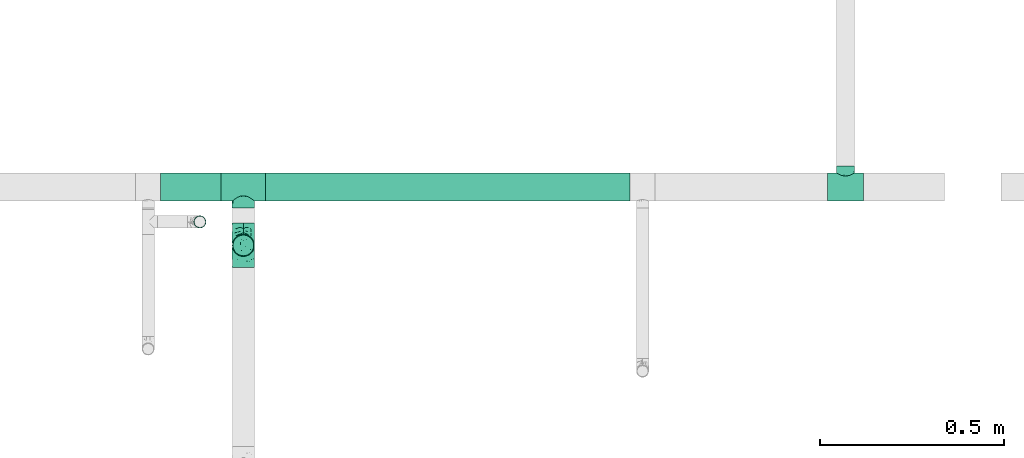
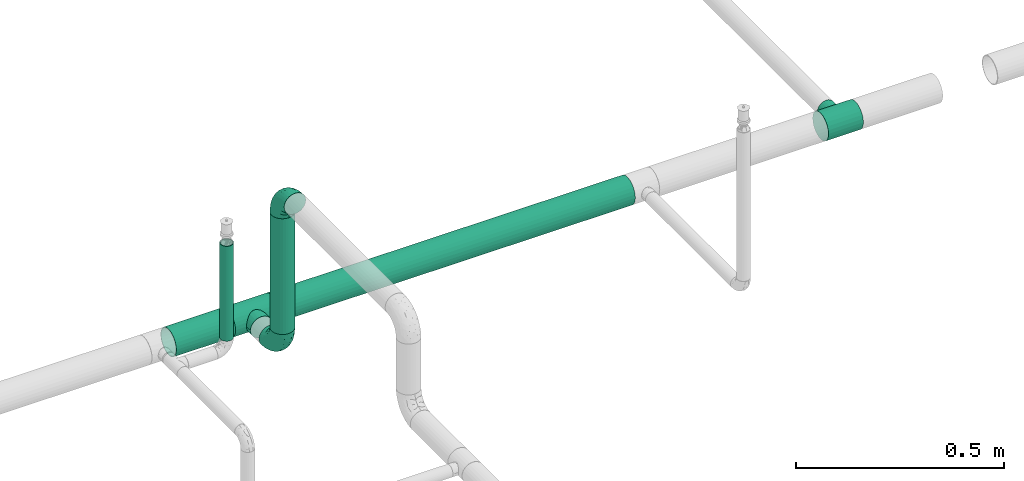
# One storey, part 19 of 157: 4 flow fittings, 4 flow segments.
"""IFC2X3 building model written with IfcOpenShell, lengths in millimetres."""

from ifc_helpers import new_model, entity, si_unit, converted_unit, derived_unit, direction, frame, origin_with_axes, origin_2d_with_axis, place, context, subcontext, project, spatial, hollow_circle, extrude, open_shell, surface_model, source, transform, mapped, type_object, element, save


model = new_model("IFC2X3")

# Units and contexts
model_context = context("Model", 3, precision=0.01, world=frame((0.0, 4.29681676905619e-09, 0.0)), true_north=direction((4.01073788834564e-13, 1.0)))
plan_context = context("Plan", 3, precision=0.01, world=frame((0.0, 4.29681676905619e-09, 0.0)), true_north=direction((4.01073788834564e-13, 1.0)))
body_context = subcontext(model_context, "Body", "Model", "MODEL_VIEW")
ifc_project = project(units=[converted_unit("PLANEANGLEUNIT", "DEGREE", entity("IfcPositiveLengthMeasure", 0.0174532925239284), si_unit("PLANEANGLEUNIT", "RADIAN"), dimensions=[0, 0, 0, 0, 0, 0, 0]), si_unit("AREAUNIT", "SQUARE_METRE"), si_unit("LENGTHUNIT", "METRE", prefix="MILLI"), si_unit("MASSUNIT", "GRAM", prefix="KILO"), si_unit("POWERUNIT", "WATT"), si_unit("PRESSUREUNIT", "PASCAL"), si_unit("FORCEUNIT", "NEWTON", prefix="KILO"), si_unit("ELECTRICCURRENTUNIT", "AMPERE"), si_unit("THERMODYNAMICTEMPERATUREUNIT", "DEGREE_CELSIUS"), si_unit("TIMEUNIT", "SECOND"), si_unit("VOLUMEUNIT", "CUBIC_METRE"), derived_unit("LINEARVELOCITYUNIT", [(si_unit("LENGTHUNIT", "METRE"), 1), (si_unit("TIMEUNIT", "SECOND"), -1)]), derived_unit("VOLUMETRICFLOWRATEUNIT", [(si_unit("VOLUMEUNIT", "CUBIC_METRE"), 1), (si_unit("TIMEUNIT", "SECOND"), -1)]), derived_unit("THERMALTRANSMITTANCEUNIT", [(si_unit("POWERUNIT", "WATT"), 1), (si_unit("THERMODYNAMICTEMPERATUREUNIT", "KELVIN"), -1), (si_unit("AREAUNIT", "SQUARE_METRE"), -1)])], contexts=[model_context, plan_context])

# Site, building, storey
site_placement = place(None, frame((0.0, -4.29681676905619e-09, 0.0), z_axis=(0.0, 0.0, 1.0), x_axis=(1.0, 0.0, 0.0)))
site = spatial("IfcSite", under=ifc_project, at=site_placement, CompositionType="ELEMENT")
building_placement = place(site_placement, frame((0.0, 4.29681676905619e-09, 0.0), z_axis=(0.0, 0.0, 1.0), x_axis=(1.0, 0.0, 0.0)))
building = spatial("IfcBuilding", under=site, at=building_placement, Name="mc-building", CompositionType="ELEMENT")
storey_placement = place(building_placement, frame((0.0, 0.0, 204000.0), z_axis=(0.0, 0.0, 1.0), x_axis=(1.0, 0.0, 0.0)))
storey = spatial("IfcBuildingStorey", under=building, at=storey_placement, Name="Nivå D", CompositionType="ELEMENT", Elevation=204000.0)

# Flow fittings
pipe_fitting_type_1 = type_object("IfcPipeFittingType", Name="magi_pipe_fe_tee_centric_90_NOR", PredefinedType="JUNCTION")
shared_shape_1 = source(origin_with_axes(), body_context, "Body", "SurfaceModel", [
    surface_model("IfcShellBasedSurfaceModel", [(-48.4, 9.86101, -36.80177), (-48.4, 0.0, -38.1), (-48.4, 36.80177, -9.86101), (-48.4, 19.05, -32.99557), (-48.4, 32.99557, -19.05), (-48.4, 26.94077, -26.94077), (-48.4, -38.1, 0.0), (-48.4, -19.05, -32.99557), (-48.4, -26.94077, -26.94077), (-48.4, -9.86101, -36.80177), (-48.4, -32.99557, -19.05), (-48.4, -36.80177, -9.86101), (-48.4, 38.1, 0.0), (-48.4, 32.99557, 19.05), (-48.4, 36.80177, 9.86101), (-48.4, -36.80177, 9.86101), (-48.4, 19.05, 32.99557), (-48.4, 26.94077, 26.94077), (-48.4, 9.86101, 36.80177), (-48.4, 0.0, 38.1), (-48.4, -26.94077, 26.94077), (-48.4, -32.99557, 19.05), (-48.4, -9.86101, 36.80177), (-48.4, -19.05, 32.99557), (48.4, 0.0, -38.1), (48.4, 9.86101, -36.80177), (48.4, 19.05, -32.99557), (48.4, 26.94077, -26.94077), (48.4, 32.99557, -19.05), (48.4, 36.80177, -9.86101), (48.4, -26.94077, -26.94077), (48.4, -38.1, 0.0), (48.4, -9.86101, -36.80177), (48.4, -19.05, -32.99557), (48.4, -32.99557, -19.05), (48.4, -36.80177, -9.86101), (48.4, 36.80177, 9.86101), (48.4, 32.99557, 19.05), (48.4, 19.05, 32.99557), (48.4, 0.0, 38.1), (48.4, 26.94077, 26.94077), (48.4, 9.86101, 36.80177), (48.4, -32.99557, 19.05), (48.4, -26.94077, 26.94077), (48.4, -36.80177, 9.86101), (48.4, -19.05, 32.99557), (48.4, -9.86101, 36.80177), (48.4, 38.1, 0.0), (22.67163, -37.14799, 8.46387), (24.2, -38.1, 0.0), (18.4612, -34.73882, 15.64686), (12.20123, -31.85656, 20.89904), (4.31503, -29.74205, 23.81219), (48.4, -34.89867, 14.4555), (-18.46661, -34.7417, 15.64047), (-48.4, -34.89867, 14.4555), (-24.2, -38.1, 0.0), (-22.67247, -37.1485, 8.46164), (-12.20341, -31.85739, 20.89777), (-4.32227, -29.7431, 23.81088), (12.20123, -31.85656, -20.89904), (-18.46661, -34.7417, -15.64047), (-48.4, -34.89867, -14.4555), (4.31503, -29.74205, -23.81219), (18.4612, -34.73882, -15.64686), (22.67163, -37.14799, -8.46387), (48.4, -34.89867, -14.4555), (-4.32227, -29.7431, -23.81088), (-12.20341, -31.85739, -20.89777), (-22.67247, -37.1485, -8.46164), (0.0, -57.15, -24.2), (6.26342, -57.15, -23.37541), (12.1, -57.15, -20.95781), (12.1, -57.15, 20.95781), (17.11198, -57.15, -17.11198), (20.95781, -57.15, -12.1), (23.37541, -57.15, -6.26342), (-12.1, -57.15, -20.95781), (-20.95781, -57.15, -12.1), (-17.11198, -57.15, -17.11198), (-6.26342, -57.15, -23.37541), (-23.37541, -57.15, -6.26342), (-24.2, -57.15, 0.0), (24.2, -57.15, 0.0), (23.37541, -57.15, 6.26342), (20.95781, -57.15, 12.1), (-23.37541, -57.15, 6.26342), (17.11198, -57.15, 17.11198), (6.26342, -57.15, 23.37541), (-17.11198, -57.15, 17.11198), (-20.95781, -57.15, 12.1), (-12.1, -57.15, 20.95781), (0.0, -57.15, 24.2), (-6.26342, -57.15, 23.37541), (-23.43623, -37.62425, 4.23082), (-0.00362, -29.74257, 23.81153), (8.25813, -30.7993, 22.35562), (23.43582, -37.62399, 4.23193), (23.43582, -37.62399, -4.23193), (-23.43623, -37.62425, -4.23082), (8.25813, -30.7993, -22.35562), (-0.00362, -29.74257, -23.81153)], [open_shell([[[0, 1, 2]], [[3, 0, 2]], [[2, 4, 5]], [[3, 2, 5]], [[6, 2, 1]], [[7, 8, 9]], [[8, 1, 9]], [[10, 11, 8]], [[6, 8, 11]], [[8, 6, 1]], [[6, 12, 2]], [[13, 14, 12]], [[13, 12, 15]], [[16, 13, 15]], [[17, 13, 16]], [[18, 16, 19]], [[20, 19, 21]], [[16, 15, 21]], [[22, 19, 23]], [[20, 23, 19]], [[21, 19, 16]], [[6, 15, 12]], [[24, 25, 26]], [[24, 26, 27]], [[27, 28, 29]], [[24, 27, 30]], [[31, 27, 29]], [[32, 30, 33]], [[32, 24, 30]], [[34, 31, 35]], [[31, 34, 30]], [[27, 31, 30]], [[29, 36, 31]], [[36, 37, 31]], [[31, 37, 38]], [[38, 39, 31]], [[38, 37, 40]], [[39, 38, 41]], [[42, 39, 43]], [[44, 31, 42]], [[45, 39, 46]], [[39, 45, 43]], [[39, 42, 31]], [[36, 29, 47]], [[31, 44, 48]], [[48, 49, 31]], [[44, 50, 48]], [[42, 43, 51]], [[51, 50, 42]], [[52, 51, 43]], [[43, 20, 52]], [[42, 50, 53]], [[54, 21, 55]], [[56, 57, 6]], [[15, 6, 57]], [[57, 54, 15]], [[58, 59, 20]], [[58, 21, 54]], [[21, 58, 20]], [[54, 55, 15]], [[59, 52, 20]], [[50, 44, 53]], [[43, 23, 20]], [[19, 46, 39]], [[22, 45, 46]], [[18, 39, 41]], [[37, 36, 14]], [[17, 38, 40]], [[13, 40, 37]], [[41, 38, 16]], [[12, 36, 47]], [[23, 45, 22]], [[22, 46, 19]], [[18, 19, 39]], [[41, 16, 18]], [[16, 38, 17]], [[13, 17, 40]], [[14, 13, 37]], [[36, 12, 14]], [[45, 23, 43]], [[12, 47, 29]], [[28, 27, 4]], [[2, 29, 28]], [[24, 32, 9]], [[0, 26, 25]], [[1, 25, 24]], [[26, 3, 27]], [[7, 32, 33]], [[4, 27, 5]], [[12, 29, 2]], [[2, 28, 4]], [[5, 27, 3]], [[26, 0, 3]], [[1, 0, 25]], [[9, 1, 24]], [[32, 7, 9]], [[33, 8, 7]], [[30, 34, 60]], [[61, 11, 62]], [[60, 63, 30]], [[34, 64, 60]], [[30, 63, 8]], [[35, 31, 65]], [[65, 64, 35]], [[49, 65, 31]], [[35, 64, 66]], [[67, 68, 8]], [[64, 34, 66]], [[10, 8, 68]], [[68, 61, 10]], [[67, 8, 63]], [[61, 69, 11]], [[69, 6, 11]], [[6, 69, 56]], [[61, 62, 10]], [[30, 8, 33]], [[70, 71, 72]], [[73, 70, 72]], [[74, 75, 76]], [[74, 76, 72]], [[73, 77, 70]], [[77, 78, 79]], [[77, 80, 70]], [[77, 81, 78]], [[81, 77, 82]], [[77, 73, 82]], [[83, 72, 76]], [[83, 84, 85]], [[83, 85, 73]], [[73, 86, 82]], [[73, 85, 87]], [[86, 73, 88]], [[86, 89, 90]], [[86, 88, 89]], [[91, 92, 93]], [[92, 91, 89]], [[88, 92, 89]], [[73, 72, 83]], [[86, 94, 82]], [[54, 90, 89]], [[86, 90, 57]], [[89, 91, 58]], [[94, 56, 82]], [[57, 90, 54]], [[58, 93, 59]], [[58, 54, 89]], [[92, 52, 95]], [[58, 91, 93]], [[73, 96, 88]], [[97, 83, 49]], [[86, 57, 94]], [[88, 52, 92]], [[48, 85, 84]], [[97, 48, 84]], [[85, 50, 87]], [[92, 59, 93]], [[96, 52, 88]], [[73, 51, 96]], [[73, 87, 51]], [[51, 87, 50]], [[50, 85, 48]], [[83, 97, 84]], [[95, 59, 92]], [[76, 98, 83]], [[64, 75, 74]], [[99, 69, 81]], [[76, 75, 65]], [[74, 72, 60]], [[98, 49, 83]], [[65, 75, 64]], [[71, 63, 100]], [[60, 64, 74]], [[70, 67, 101]], [[70, 63, 71]], [[100, 60, 72]], [[100, 72, 71]], [[76, 65, 98]], [[68, 77, 79]], [[68, 80, 77]], [[69, 78, 81]], [[79, 78, 61]], [[99, 82, 56]], [[67, 70, 80]], [[80, 68, 67]], [[101, 63, 70]], [[68, 79, 61]], [[61, 78, 69]], [[82, 99, 81]]])]),
])
flow_fitting_1_placement = place(storey_placement, frame((529390.56587, 414039.35389, 2690.0), z_axis=(0.0, 0.0, 1.0), x_axis=(-1.0, 0.0, 0.0)))
element("IfcFlowFitting", 1, at=flow_fitting_1_placement, inside=storey, type_object=pipe_fitting_type_1, Name="magi_pipe_fe_tee_centric_90_NOR", context=body_context, shape_type="MappedRepresentation", body=[
    mapped(shared_shape_1, transform((0.0, 0.0, 0.0), scale=1.0)),
])
pipe_fitting_type_2 = type_object("IfcPipeFittingType", Name="magi_pipe_fe_elbow_short_001", PredefinedType="BEND")
shared_shape_2 = source(origin_with_axes(), body_context, "Body", "SurfaceModel", [
    surface_model("IfcShellBasedSurfaceModel", [(-60.4, 15.1, -26.15397), (-60.4, 7.81634, -29.17096), (-60.4, 0.0, -30.2), (-60.4, -21.35462, -21.35462), (-60.4, 26.15397, -15.1), (-60.4, 21.35462, -21.35462), (-60.4, 29.17096, -7.81634), (-60.4, -15.1, -26.15397), (-60.4, -7.81634, -29.17096), (-60.4, -26.15397, -15.1), (-60.4, -29.17096, -7.81634), (-60.4, -30.2, 0.0), (-60.4, -29.17096, 7.81634), (-60.4, 29.17096, 7.81634), (-60.4, -21.35462, 21.35462), (-60.4, 26.15397, 15.1), (-60.4, 21.35462, 21.35462), (-60.4, 7.81634, 29.17096), (-60.4, 15.1, 26.15397), (-60.4, -26.15397, 15.1), (-60.4, -7.81634, 29.17096), (-60.4, 0.0, 30.2), (-60.4, -15.1, 26.15397), (-60.4, 30.2, 0.0), (0.0, 60.4, -30.2), (-7.81634, 60.4, -29.17096), (-15.1, 60.4, -26.15397), (-26.15397, 60.4, -15.1), (-29.17096, 60.4, -7.81634), (-21.35462, 60.4, -21.35462), (29.17096, 60.4, -7.81634), (7.81634, 60.4, -29.17096), (21.35462, 60.4, -21.35462), (15.1, 60.4, -26.15397), (26.15397, 60.4, -15.1), (29.17096, 60.4, 7.81634), (30.2, 60.4, 0.0), (-29.17096, 60.4, 7.81634), (21.35462, 60.4, 21.35462), (-21.35462, 60.4, 21.35462), (-26.15397, 60.4, 15.1), (-15.1, 60.4, 26.15397), (-7.81634, 60.4, 29.17096), (26.15397, 60.4, 15.1), (15.1, 60.4, 26.15397), (0.0, 60.4, 30.2), (7.81634, 60.4, 29.17096), (-30.2, 60.4, 0.0), (-40.79975, -26.48639, 9.49143), (-44.2927, -23.46036, 16.95222), (-32.40306, -25.76572, 0.0), (-45.54716, -27.84754, 0.0), (-7.73382, -10.42985, 11.64553), (-2.102, -8.06735, 6.35117), (1.74449, -1.74448, 12.51332), (-46.13593, -4.00068, 29.68351), (-42.2898, 4.62925, 30.14853), (10.31662, 7.37496, 11.34434), (18.44156, 24.57514, 15.02148), (7.07276, 10.95732, 19.27498), (-30.06693, -0.27102, 29.27145), (-44.17726, -11.39441, 27.16031), (-23.4551, -7.13383, 25.24246), (-38.74025, -17.25266, 22.43475), (-27.059, -23.14697, 6.2131), (-19.77486, -19.33133, 0.0), (-10.95732, -7.07276, 19.27498), (-5.39458, 5.39458, 24.69106), (-29.52069, 48.20084, 13.12597), (-25.22813, 47.01796, 19.8404), (-11.27311, 52.093, 28.2877), (-4.13904, 45.17494, 30.12582), (-46.55352, 11.8443, 28.52822), (-7.88305, 20.22717, 29.65331), (-15.00576, 5.54025, 28.20072), (-3.0852, 16.31623, 27.75343), (-52.24998, 18.2886, 24.60768), (-10.49591, 29.69865, 30.14582), (-22.36958, 22.36958, 29.4662), (-17.98262, 13.19715, 30.04443), (-47.74519, 32.16745, 6.63994), (-48.21585, 29.51581, 13.12396), (-37.49729, 37.49729, 11.28901), (-47.20967, 25.1754, 19.81929), (17.25266, 38.74025, 22.43475), (-31.32046, 40.03273, 17.09289), (11.39441, 44.17725, 27.16031), (23.46036, 44.2927, 16.95222), (26.48639, 40.79975, 9.49143), (-7.14666, -12.89694, 0.0), (-14.66463, -16.61192, 7.82462), (4.00068, 46.13593, 29.68351), (-33.18602, 12.93608, 29.65955), (-29.63414, 7.40029, 30.18711), (19.33133, 19.77486, 0.0), (23.14697, 27.059, 6.2131), (16.61192, 14.66463, 7.82462), (27.84754, 45.54716, 0.0), (-32.10611, 20.49149, 27.93323), (-24.57514, -18.44156, 15.02148), (-21.89487, 39.03366, 25.38224), (-18.45005, 50.6405, 24.73297), (-31.78933, 48.71949, 6.47886), (-37.84917, 39.61073, 5.315), (13.91334, 24.32737, 20.46816), (7.13383, 23.4551, 25.24246), (-34.24603, 45.3, 0.0), (-27.95749, 31.89166, 24.81537), (-41.58677, 20.50028, 25.43151), (-0.46157, 0.46157, 17.84239), (-17.23338, 31.26213, 29.03145), (-24.05994, 29.23812, 27.47858), (-13.06094, 40.92174, 28.76128), (-31.83392, 33.72702, 21.39203), (-38.78737, 32.45032, 16.84022), (0.27102, 30.06693, 29.27145), (-24.21469, -13.23741, 21.05734), (8.23548, 2.19333, 6.02161), (25.76572, 32.40306, 0.0), (12.89694, 7.14666, 0.0), (-45.3, 34.24603, 0.0), (2.87514, -2.87514, 0.0), (-44.53432, 26.00869, -20.11577), (-48.18822, 29.5248, -13.12766), (-24.67192, -7.62159, -25.33714), (-26.22398, -0.37671, -28.72374), (-12.13397, -0.50536, -24.74577), (-47.80891, 3.81859, -30.10171), (-44.05719, -27.03585, -9.84546), (-37.94552, -22.39569, -16.35738), (-28.81663, -22.64668, -10.132), (-43.93799, 12.32789, -28.63778), (-33.27, 7.1392, -30.19348), (-26.0087, 44.53432, -20.11577), (-48.89164, 31.68872, -6.60822), (-18.95522, 47.41145, -24.9828), (-12.32789, 43.93799, -28.63778), (-38.42778, 38.42778, -7.21049), (18.04263, 43.69152, -22.80146), (10.42233, 38.24532, -26.85918), (11.90576, 51.00473, -27.48545), (-5.88381, -10.62327, -7.95335), (-5.9694, -7.83116, -13.76182), (3.24899, -2.56331, -7.96861), (-17.62229, 16.32998, -30.18286), (-28.62959, 17.86952, -29.30113), (-47.41145, 18.95522, -24.98279), (-50.84455, -24.04089, -17.54629), (-29.38053, 34.30665, -22.74674), (-27.91099, 27.91099, -26.51666), (-36.91219, 25.51094, -23.99233), (2.63361, -0.55507, -12.94367), (-43.69152, -18.04263, -22.80146), (22.39569, 37.94552, -16.35738), (27.03585, 44.05719, -9.84546), (22.64668, 28.81663, -10.132), (-51.00473, -11.90576, -27.48545), (3.80785, 44.49426, -29.64782), (-19.0921, -14.69952, -16.47487), (-22.5489, -12.31934, -21.1263), (-10.94772, -7.46239, -18.88204), (-32.95885, -13.78948, -23.71249), (-38.24532, -10.42233, -26.85918), (-44.49427, -3.80785, -29.64782), (-22.6301, 37.15314, -25.58239), (-31.68872, 48.89164, -6.60822), (-3.8186, 47.80891, -30.10171), (-10.66133, 10.66133, -28.51691), (0.37671, 26.22398, -28.72374), (1.27136, 14.18619, -25.18541), (-29.5248, 48.18821, -13.12766), (-36.27113, 36.27113, -14.88553), (24.04089, 50.84455, -17.54629), (17.50188, 24.2636, -16.21902), (9.73525, 11.44907, -16.75087), (12.31934, 22.5489, -21.1263), (6.24176, 25.78208, -26.38266), (-7.1392, 33.27, -30.19348), (-36.7166, 19.4356, -27.21946), (-18.00754, 29.38864, -29.15505), (-0.28629, 0.28629, -17.49884), (-13.98848, -16.88492, -5.19509), (15.48569, 15.00432, -11.24742), (16.88492, 13.98848, -5.19509), (3.55782, 9.20508, -21.18402), (-15.00432, -15.48569, -11.24742)], [open_shell([[[0, 1, 2]], [[0, 2, 3]], [[4, 0, 3]], [[5, 0, 4]], [[6, 4, 3]], [[7, 3, 8]], [[3, 2, 8]], [[9, 10, 3]], [[3, 10, 6]], [[11, 12, 10]], [[13, 6, 10]], [[13, 10, 14]], [[15, 13, 16]], [[17, 18, 16]], [[13, 17, 16]], [[17, 13, 14]], [[19, 14, 12]], [[12, 14, 10]], [[20, 21, 22]], [[17, 14, 22]], [[17, 22, 21]], [[13, 23, 6]], [[24, 25, 26]], [[24, 26, 27]], [[27, 28, 24]], [[27, 26, 29]], [[24, 28, 30]], [[31, 32, 33]], [[31, 24, 32]], [[32, 30, 34]], [[24, 30, 32]], [[30, 35, 36]], [[30, 28, 37]], [[38, 30, 37]], [[39, 37, 40]], [[39, 41, 42]], [[39, 42, 37]], [[38, 37, 42]], [[35, 38, 43]], [[30, 38, 35]], [[44, 45, 46]], [[44, 38, 42]], [[45, 44, 42]], [[28, 47, 37]], [[48, 49, 19]], [[50, 48, 51]], [[52, 53, 54]], [[12, 48, 19]], [[12, 51, 48]], [[21, 55, 56]], [[19, 49, 14]], [[57, 58, 59]], [[60, 61, 62]], [[63, 22, 14]], [[63, 61, 22]], [[64, 50, 65]], [[62, 66, 67]], [[40, 68, 69]], [[42, 70, 71]], [[17, 72, 18]], [[73, 74, 75]], [[18, 76, 16]], [[20, 55, 21]], [[77, 78, 79]], [[80, 81, 82]], [[15, 83, 81]], [[84, 38, 44]], [[23, 13, 80]], [[13, 15, 81]], [[68, 85, 69]], [[83, 15, 16]], [[21, 56, 17]], [[44, 86, 84]], [[16, 76, 83]], [[87, 58, 88]], [[40, 37, 68]], [[89, 90, 65]], [[45, 91, 46]], [[65, 90, 64]], [[45, 42, 71]], [[92, 93, 79]], [[88, 35, 43]], [[43, 38, 87]], [[87, 88, 43]], [[94, 95, 96]], [[88, 97, 35]], [[98, 72, 92]], [[49, 99, 63]], [[69, 100, 101]], [[82, 102, 103]], [[104, 105, 59]], [[106, 102, 47]], [[98, 107, 108]], [[102, 82, 68]], [[86, 44, 46]], [[69, 39, 40]], [[109, 54, 57]], [[110, 100, 111]], [[22, 61, 20]], [[101, 41, 39]], [[70, 42, 41]], [[112, 77, 71]], [[84, 86, 105]], [[96, 95, 58]], [[100, 69, 113]], [[72, 17, 56]], [[108, 113, 83]], [[81, 114, 82]], [[112, 110, 77]], [[91, 71, 115]], [[62, 61, 63]], [[55, 61, 60]], [[116, 99, 66]], [[74, 62, 67]], [[91, 86, 46]], [[105, 86, 115]], [[75, 105, 115]], [[109, 67, 66]], [[59, 105, 67]], [[48, 64, 99]], [[99, 49, 48]], [[63, 14, 49]], [[38, 84, 87]], [[58, 87, 84]], [[92, 72, 56]], [[76, 72, 108]], [[102, 68, 37]], [[82, 114, 85]], [[98, 111, 107]], [[112, 70, 101]], [[114, 83, 113]], [[82, 103, 80]], [[92, 79, 78]], [[115, 71, 77]], [[74, 79, 60]], [[77, 79, 73]], [[71, 91, 45]], [[86, 91, 115]], [[61, 55, 20]], [[56, 55, 60]], [[57, 54, 117]], [[104, 59, 58]], [[116, 66, 62]], [[52, 99, 90]], [[12, 11, 51]], [[97, 88, 118]], [[97, 36, 35]], [[53, 90, 89]], [[90, 53, 52]], [[94, 96, 119]], [[88, 95, 118]], [[117, 54, 53]], [[92, 56, 93]], [[98, 92, 78]], [[111, 98, 78]], [[72, 98, 108]], [[110, 111, 78]], [[107, 111, 100]], [[47, 102, 37]], [[102, 106, 103]], [[106, 120, 103]], [[103, 120, 80]], [[23, 80, 120]], [[13, 81, 80]], [[56, 60, 93]], [[60, 79, 93]], [[117, 121, 119]], [[121, 117, 53]], [[53, 89, 121]], [[119, 96, 117]], [[117, 96, 57]], [[77, 110, 78]], [[100, 110, 112]], [[83, 114, 81]], [[85, 114, 113]], [[69, 85, 113]], [[82, 85, 68]], [[109, 52, 54]], [[99, 52, 66]], [[69, 101, 39]], [[112, 101, 100]], [[100, 113, 107]], [[108, 107, 113]], [[62, 74, 60]], [[75, 74, 67]], [[105, 75, 67]], [[73, 75, 115]], [[77, 73, 115]], [[74, 73, 79]], [[99, 64, 90]], [[50, 64, 48]], [[118, 95, 94]], [[58, 95, 88]], [[58, 57, 96]], [[109, 57, 59]], [[72, 76, 18]], [[83, 76, 108]], [[101, 70, 41]], [[71, 70, 112]], [[58, 84, 104]], [[105, 104, 84]], [[67, 109, 59]], [[52, 109, 66]], [[62, 63, 116]], [[99, 116, 63]], [[122, 4, 123]], [[124, 125, 126]], [[2, 1, 127]], [[128, 129, 130]], [[127, 131, 132]], [[27, 29, 133]], [[120, 134, 23]], [[135, 26, 136]], [[123, 134, 137]], [[138, 139, 140]], [[122, 5, 4]], [[141, 142, 143]], [[144, 132, 145]], [[131, 0, 146]], [[128, 9, 147]], [[148, 149, 150]], [[128, 51, 10]], [[142, 151, 143]], [[152, 3, 7]], [[153, 154, 155]], [[156, 152, 7]], [[31, 157, 24]], [[158, 159, 160]], [[147, 9, 3]], [[129, 152, 161]], [[156, 7, 8]], [[162, 163, 125]], [[154, 34, 30]], [[120, 106, 137]], [[149, 148, 164]], [[47, 28, 165]], [[163, 8, 2]], [[4, 6, 123]], [[25, 166, 136]], [[167, 168, 169]], [[170, 133, 171]], [[25, 24, 166]], [[33, 32, 138]], [[157, 31, 140]], [[28, 27, 170]], [[32, 34, 172]], [[26, 135, 29]], [[132, 131, 145]], [[31, 33, 140]], [[173, 174, 175]], [[169, 168, 176]], [[25, 136, 26]], [[175, 138, 173]], [[168, 177, 157]], [[163, 162, 156]], [[153, 172, 154]], [[9, 128, 10]], [[154, 97, 118]], [[131, 178, 145]], [[0, 5, 146]], [[175, 139, 138]], [[155, 118, 94]], [[131, 1, 0]], [[146, 178, 131]], [[170, 137, 165]], [[149, 179, 145]], [[171, 133, 148]], [[160, 180, 142]], [[65, 181, 89]], [[170, 165, 28]], [[137, 171, 123]], [[172, 138, 32]], [[138, 153, 173]], [[168, 157, 139]], [[166, 157, 177]], [[176, 175, 169]], [[168, 167, 144]], [[154, 30, 97]], [[155, 182, 173]], [[162, 124, 161]], [[147, 152, 129]], [[127, 163, 2]], [[132, 144, 125]], [[132, 125, 163]], [[125, 167, 126]], [[129, 158, 130]], [[30, 36, 97]], [[143, 182, 183]], [[169, 126, 167]], [[5, 122, 146]], [[178, 150, 149]], [[136, 179, 164]], [[133, 29, 135]], [[123, 6, 134]], [[122, 123, 171]], [[133, 170, 27]], [[137, 170, 171]], [[184, 175, 174]], [[180, 160, 126]], [[126, 169, 184]], [[126, 159, 124]], [[51, 128, 50]], [[51, 11, 10]], [[131, 127, 1]], [[163, 127, 132]], [[157, 166, 24]], [[136, 166, 177]], [[164, 179, 149]], [[144, 167, 125]], [[179, 144, 145]], [[168, 144, 177]], [[136, 177, 179]], [[144, 179, 177]], [[141, 121, 89]], [[89, 181, 141]], [[154, 118, 155]], [[183, 155, 94]], [[143, 183, 119]], [[119, 183, 94]], [[155, 183, 182]], [[181, 130, 185]], [[50, 128, 130]], [[130, 181, 65]], [[50, 130, 65]], [[141, 181, 185]], [[142, 141, 185]], [[143, 121, 141]], [[158, 160, 142]], [[142, 180, 151]], [[158, 142, 185]], [[126, 160, 159]], [[130, 158, 185]], [[129, 159, 158]], [[23, 134, 6]], [[120, 137, 134]], [[137, 106, 165]], [[47, 165, 106]], [[174, 151, 180]], [[182, 143, 151]], [[150, 146, 122]], [[149, 145, 178]], [[146, 150, 178]], [[122, 171, 148]], [[148, 150, 122]], [[164, 133, 135]], [[133, 164, 148]], [[164, 135, 136]], [[138, 140, 33]], [[157, 140, 139]], [[154, 172, 34]], [[138, 172, 153]], [[163, 156, 8]], [[152, 156, 162]], [[152, 147, 3]], [[128, 147, 129]], [[155, 173, 153]], [[174, 173, 182]], [[151, 174, 182]], [[174, 180, 184]], [[126, 184, 180]], [[175, 184, 169]], [[168, 139, 176]], [[175, 176, 139]], [[161, 124, 159]], [[125, 124, 162]], [[129, 161, 159]], [[162, 161, 152]], [[143, 119, 121]]])]),
])
for number, where, z_axis, x_axis, name in (
    (2, (527758.2357, 413880.91523, 3150.0), (1.0, 0.0, 0.0), (0.0, 0.0, 1.0), "magi_pipe_fe_elbow_short_001"),
    (3, (527758.2357, 413880.91523, 2690.0), (1.0, 0.0, 0.0), (0.0, 0.0, -1.0), "magi_pipe_fe_elbow_short_001"),
):
    element("IfcFlowFitting", number, at=place(storey_placement, frame(where, z_axis=z_axis, x_axis=x_axis)), inside=storey, type_object=pipe_fitting_type_2, Name=name, context=body_context, shape_type="MappedRepresentation", body=[
        mapped(shared_shape_2, transform((0.0, 0.0, 0.0), scale=1.0)),
    ])
shared_shape_3 = source(origin_with_axes(), body_context, "Body", "SurfaceModel", [
    surface_model("IfcShellBasedSurfaceModel", [(-60.4, 9.86101, -36.80177), (-60.4, 0.0, -38.1), (-60.4, 36.80177, -9.86101), (-60.4, 19.05, -32.99557), (-60.4, 32.99557, -19.05), (-60.4, 26.94077, -26.94077), (-60.4, -38.1, 0.0), (-60.4, -19.05, -32.99557), (-60.4, -26.94077, -26.94077), (-60.4, -9.86101, -36.80177), (-60.4, -32.99557, -19.05), (-60.4, -36.80177, -9.86101), (-60.4, 38.1, 0.0), (-60.4, 32.99557, 19.05), (-60.4, 36.80177, 9.86101), (-60.4, -36.80177, 9.86101), (-60.4, 19.05, 32.99557), (-60.4, 26.94077, 26.94077), (-60.4, 9.86101, 36.80177), (-60.4, 0.0, 38.1), (-60.4, -26.94077, 26.94077), (-60.4, -32.99557, 19.05), (-60.4, -9.86101, 36.80177), (-60.4, -19.05, 32.99557), (60.4, 0.0, -38.1), (60.4, 9.86101, -36.80177), (60.4, 19.05, -32.99557), (60.4, 26.94077, -26.94077), (60.4, 32.99557, -19.05), (60.4, 36.80177, -9.86101), (60.4, -38.1, 0.0), (60.4, -9.86101, -36.80177), (60.4, -26.94077, -26.94077), (60.4, -19.05, -32.99557), (60.4, -32.99557, -19.05), (60.4, -36.80177, -9.86101), (60.4, 36.80177, 9.86101), (60.4, 32.99557, 19.05), (60.4, 19.05, 32.99557), (60.4, 0.0, 38.1), (60.4, 26.94077, 26.94077), (60.4, 9.86101, 36.80177), (60.4, -26.94077, 26.94077), (60.4, -32.99557, 19.05), (60.4, -36.80177, 9.86101), (60.4, -19.05, 32.99557), (60.4, -9.86101, 36.80177), (60.4, 38.1, 0.0), (30.2, -38.1, 0.0), (28.21297, -36.54506, 10.7735), (22.90358, -32.62122, 19.68415), (15.23524, -27.77917, 26.07542), (5.49864, -23.87059, 29.6952), (-30.2, -38.1, 0.0), (-28.21409, -36.54593, 10.77057), (-15.2375, -27.78041, 26.0741), (-5.50829, -23.87281, 29.69341), (-22.9083, -32.62453, 19.67866), (5.49864, -23.87059, -29.6952), (22.90358, -32.62122, -19.68415), (15.23524, -27.77917, -26.07542), (28.21297, -36.54506, -10.7735), (-5.50829, -23.87281, -29.69341), (-15.2375, -27.78041, -26.0741), (-22.9083, -32.62453, -19.67866), (-28.21409, -36.54593, -10.77057), (-21.35462, -57.15, -21.35462), (0.0, -57.15, -30.2), (7.81634, -57.15, -29.17096), (15.1, -57.15, -26.15397), (-30.2, -57.15, 0.0), (26.15397, -57.15, -15.1), (21.35462, -57.15, -21.35462), (26.15397, -57.15, 15.1), (-7.81634, -57.15, -29.17096), (-15.1, -57.15, -26.15397), (-29.17096, -57.15, -7.81634), (-26.15397, -57.15, -15.1), (29.17096, -57.15, -7.81634), (30.2, -57.15, 0.0), (29.17096, -57.15, 7.81634), (7.81634, -57.15, 29.17096), (15.1, -57.15, 26.15397), (21.35462, -57.15, 21.35462), (-21.35462, -57.15, 21.35462), (-26.15397, -57.15, 15.1), (-29.17096, -57.15, 7.81634), (-15.1, -57.15, 26.15397), (0.0, -57.15, 30.2), (-7.81634, -57.15, 29.17096), (-29.20704, -37.32296, 5.38529), (29.20648, -37.32253, 5.38675), (-0.00482, -23.8717, 29.69431), (29.20648, -37.32253, -5.38675), (-29.20704, -37.32296, -5.38529), (-0.00482, -23.8717, -29.69431)], [open_shell([[[0, 1, 2]], [[3, 0, 2]], [[2, 4, 5]], [[3, 2, 5]], [[6, 2, 1]], [[7, 8, 9]], [[8, 1, 9]], [[10, 11, 8]], [[6, 8, 11]], [[8, 6, 1]], [[6, 12, 2]], [[13, 14, 12]], [[15, 13, 6]], [[16, 13, 15]], [[17, 13, 16]], [[18, 16, 19]], [[20, 19, 21]], [[16, 15, 21]], [[22, 19, 23]], [[20, 23, 19]], [[21, 19, 16]], [[12, 6, 13]], [[24, 25, 26]], [[24, 26, 27]], [[27, 28, 29]], [[24, 27, 30]], [[30, 27, 29]], [[31, 32, 33]], [[31, 24, 32]], [[34, 30, 35]], [[30, 34, 32]], [[24, 30, 32]], [[29, 36, 30]], [[36, 37, 30]], [[30, 37, 38]], [[38, 39, 30]], [[38, 37, 40]], [[39, 38, 41]], [[30, 42, 43]], [[44, 30, 43]], [[45, 39, 46]], [[45, 42, 30]], [[30, 39, 45]], [[36, 29, 47]], [[30, 44, 48]], [[49, 48, 44]], [[44, 43, 49]], [[43, 42, 50]], [[51, 50, 42]], [[52, 51, 42]], [[42, 45, 52]], [[43, 50, 49]], [[53, 54, 15]], [[15, 6, 53]], [[54, 21, 15]], [[55, 56, 20]], [[21, 57, 20]], [[57, 21, 54]], [[20, 57, 55]], [[56, 23, 20]], [[52, 23, 56]], [[19, 46, 39]], [[22, 45, 46]], [[18, 39, 41]], [[37, 36, 14]], [[17, 38, 40]], [[13, 40, 37]], [[41, 38, 16]], [[12, 36, 47]], [[23, 45, 22]], [[22, 46, 19]], [[18, 19, 39]], [[41, 16, 18]], [[16, 38, 17]], [[13, 17, 40]], [[14, 13, 37]], [[36, 12, 14]], [[45, 23, 52]], [[29, 28, 4]], [[28, 27, 5]], [[47, 29, 12]], [[24, 31, 9]], [[25, 0, 26]], [[1, 25, 24]], [[26, 3, 27]], [[7, 31, 33]], [[2, 12, 29]], [[28, 5, 4]], [[2, 29, 4]], [[27, 3, 5]], [[3, 26, 0]], [[1, 0, 25]], [[9, 1, 24]], [[31, 7, 9]], [[33, 58, 7]], [[32, 59, 60]], [[59, 32, 34]], [[60, 58, 32]], [[32, 58, 33]], [[35, 30, 48]], [[35, 61, 34]], [[61, 35, 48]], [[34, 61, 59]], [[62, 63, 8]], [[8, 64, 10]], [[64, 8, 63]], [[62, 8, 7]], [[65, 53, 11]], [[65, 11, 10]], [[11, 53, 6]], [[65, 10, 64]], [[58, 62, 7]], [[66, 67, 68]], [[69, 66, 68]], [[70, 69, 71]], [[71, 69, 72]], [[73, 70, 71]], [[74, 66, 75]], [[74, 67, 66]], [[66, 76, 77]], [[76, 66, 70]], [[69, 70, 66]], [[71, 78, 79]], [[79, 80, 73]], [[81, 70, 73]], [[82, 81, 73]], [[82, 73, 83]], [[70, 81, 84]], [[70, 85, 86]], [[84, 85, 70]], [[87, 88, 89]], [[88, 87, 84]], [[81, 88, 84]], [[73, 71, 79]], [[86, 90, 70]], [[57, 85, 84]], [[91, 49, 80]], [[86, 85, 54]], [[84, 87, 55]], [[90, 53, 70]], [[54, 85, 57]], [[55, 89, 56]], [[55, 57, 84]], [[88, 52, 92]], [[55, 87, 89]], [[88, 56, 89]], [[51, 81, 82]], [[86, 54, 90]], [[83, 51, 82]], [[49, 73, 80]], [[83, 73, 50]], [[52, 88, 81]], [[81, 51, 52]], [[92, 56, 88]], [[51, 83, 50]], [[50, 73, 49]], [[79, 91, 80]], [[91, 79, 48]], [[78, 93, 79]], [[59, 71, 72]], [[94, 65, 76]], [[78, 71, 61]], [[72, 69, 60]], [[93, 48, 79]], [[61, 71, 59]], [[60, 68, 58]], [[60, 59, 72]], [[67, 62, 95]], [[60, 69, 68]], [[67, 58, 68]], [[63, 74, 75]], [[78, 61, 93]], [[66, 63, 75]], [[65, 77, 76]], [[66, 77, 64]], [[62, 67, 74]], [[74, 63, 62]], [[95, 58, 67]], [[63, 66, 64]], [[64, 77, 65]], [[70, 94, 76]], [[94, 70, 53]]])]),
])
flow_fitting_2_placement = place(storey_placement, frame((527758.2357, 414039.35389, 2690.0), z_axis=(0.0, 0.0, -1.0), x_axis=(-1.0, 0.0, 0.0)))
element("IfcFlowFitting", 4, at=flow_fitting_2_placement, inside=storey, type_object=pipe_fitting_type_1, Name="magi_pipe_fe_tee_centric_90_NOR", context=body_context, shape_type="MappedRepresentation", body=[
    mapped(shared_shape_3, transform((0.0, 0.0, 0.0), scale=1.0)),
])

# Flow segments
pipe_segment_type = type_object("IfcPipeSegmentType", Name="Stålrør normaltykke", PredefinedType="RIGIDSEGMENT")
shared_shape_4 = source(origin_with_axes(), body_context, "Body", "SweptSolid", [
    extrude(hollow_circle(Radius=16.9, WallThickness=2.0, at=origin_2d_with_axis()), frame((0.0, 0.0, 0.0), z_axis=(1.0, 0.0, 0.0), x_axis=(0.0, 1.0, 0.0)), (0.0, 0.0, 1.0), 278.3),
])
flow_segment_1_placement = place(storey_placement, frame((527640.35, 413944.735, 3002.14799999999), z_axis=(0.0, 1.0, 0.0), x_axis=(0.0, 0.0, -1.0)))
element("IfcFlowSegment", 5, at=flow_segment_1_placement, inside=storey, type_object=pipe_segment_type, Name="Stålrør normaltykke", context=body_context, shape_type="MappedRepresentation", body=[
    mapped(shared_shape_4, transform((0.0, 0.0, 0.0), scale=1.0)),
])
shared_shape_5 = source(origin_with_axes(), body_context, "Body", "SweptSolid", [
    extrude(hollow_circle(Radius=30.1, WallThickness=2.0, at=origin_2d_with_axis()), frame((0.0, 0.0, 0.0), z_axis=(1.0, 0.0, 0.0), x_axis=(0.0, 1.0, 0.0)), (0.0, 0.0, 1.0), 339.2),
])
flow_segment_2_placement = place(storey_placement, frame((527758.2357, 413880.91523, 2750.39999999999), z_axis=(1.0, 0.0, 0.0), x_axis=(0.0, 0.0, 1.0)))
element("IfcFlowSegment", 6, at=flow_segment_2_placement, inside=storey, type_object=pipe_segment_type, Name="Stålrør normaltykke", context=body_context, shape_type="MappedRepresentation", body=[
    mapped(shared_shape_5, transform((0.0, 0.0, 0.0), scale=1.0)),
])
shared_shape_6 = source(origin_with_axes(), body_context, "Body", "SweptSolid", [
    extrude(hollow_circle(Radius=38.0, WallThickness=2.0, at=origin_2d_with_axis()), frame((0.0, 0.0, 0.0), z_axis=(1.0, 0.0, 0.0), x_axis=(0.0, 1.0, 0.0)), (0.0, 0.0, 1.0), 164.1),
])
flow_segment_3_placement = place(storey_placement, frame((527533.77645, 414039.35389, 2690.0), z_axis=(0.0, 0.0, 1.0), x_axis=(1.0, 0.0, 0.0)))
element("IfcFlowSegment", 7, at=flow_segment_3_placement, inside=storey, type_object=pipe_segment_type, Name="Stålrør normaltykke", context=body_context, shape_type="MappedRepresentation", body=[
    mapped(shared_shape_6, transform((0.0, 0.0, 0.0), scale=1.0)),
])
shared_shape_7 = source(origin_with_axes(), body_context, "Body", "SweptSolid", [
    extrude(hollow_circle(Radius=38.0, WallThickness=2.0, at=origin_2d_with_axis()), frame((0.0, 0.0, 0.0), z_axis=(1.0, 0.0, 0.0), x_axis=(0.0, 1.0, 0.0)), (0.0, 0.0, 1.0), 987.9),
])
flow_segment_4_placement = place(storey_placement, frame((527818.6357, 414039.35389, 2690.0), z_axis=(0.0, 0.0, 1.0), x_axis=(1.0, 0.0, 0.0)))
element("IfcFlowSegment", 8, at=flow_segment_4_placement, inside=storey, type_object=pipe_segment_type, Name="Stålrør normaltykke", context=body_context, shape_type="MappedRepresentation", body=[
    mapped(shared_shape_7, transform((0.0, 0.0, 0.0), scale=1.0)),
])

save(model, "model.ifc")
